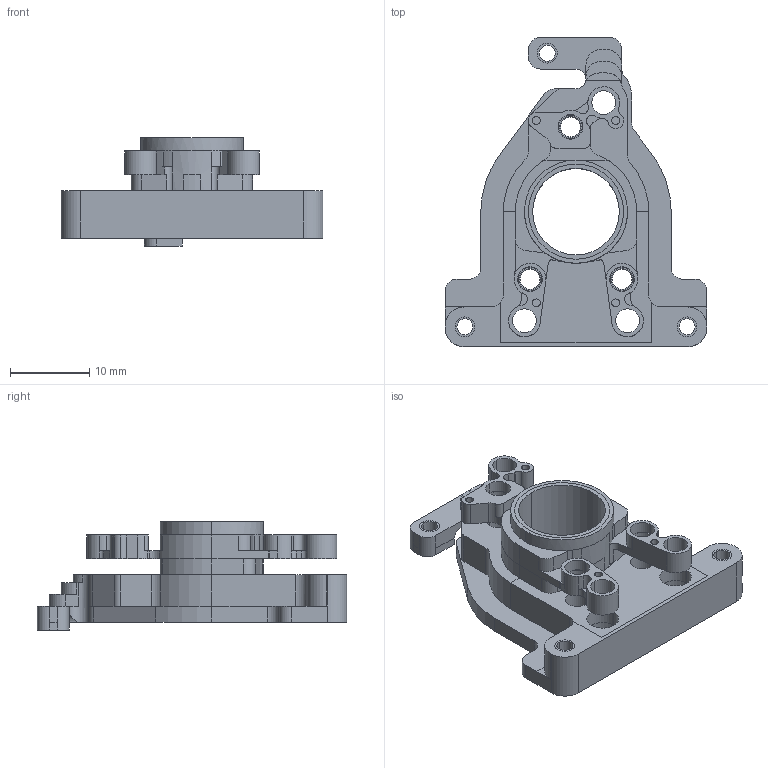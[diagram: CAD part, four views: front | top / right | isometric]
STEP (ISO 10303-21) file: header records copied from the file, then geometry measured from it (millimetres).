
FILE_DESCRIPTION(/* description */ ('(C) Elphel, Inc. 2012. Licensed under CERN OHL v.1.1 or later, see http://ohwr.org/cernohl'),/* implementation_level */ '2;1');
FILE_NAME(/* name */ '0353-19-64B',/* time_stamp */ '2012-02-03T19:07:45-07:00',/* author */ (''),/* organization */ ('Elphel, Inc'),/* preprocessor_version */ 'ST-DEVELOPER v12',/* originating_system */ 'VariCAD 2010-3.03; kernel version (20100102)',/* authorisation */ '');
FILE_SCHEMA (('AUTOMOTIVE_DESIGN'));
Length unit declared in the file: millimetre
Products named in the file (1): Part
Bounding box: 33 x 39 x 13.65 mm (x, y, z)
Volume: 3682.7 mm3; surface area: 5207.5 mm2
Topology: 5 solids, 5 shells, 330 faces, 856 edges, 546 vertices
Faces by surface type: cylinder 186, plane 118, cone 26
Entity records: 12690 total; most frequent: DIRECTION 1933, CARTESIAN_POINT 1784, ORIENTED_EDGE 1712, EDGE_CURVE 856, AXIS2_PLACEMENT_3D 748, VERTEX_POINT 546, LINE 437, VECTOR 437
